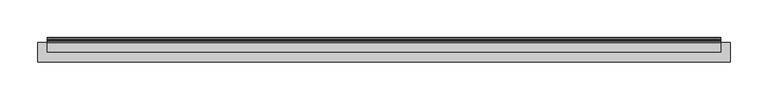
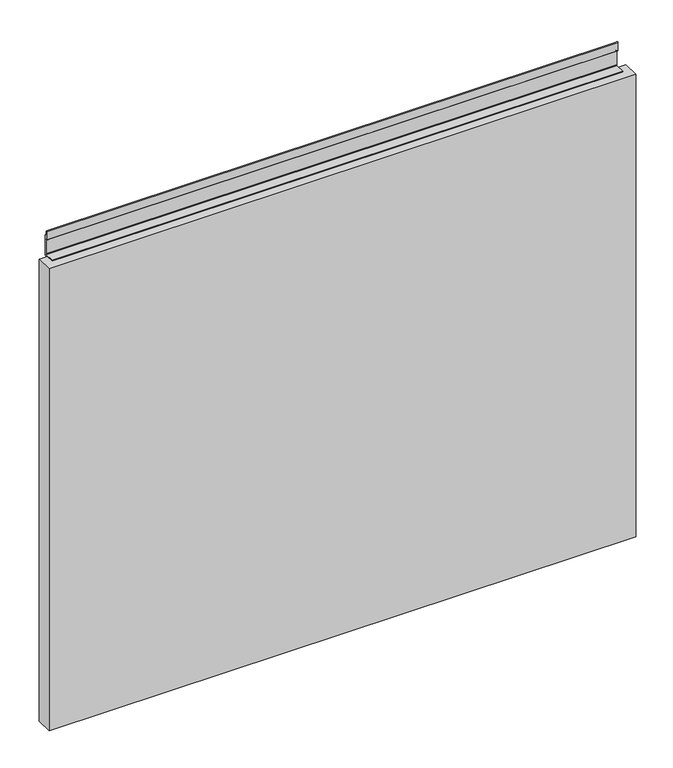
"""IFC4 building model written with IfcOpenShell, lengths in millimetres: furniture geometry, Geiger_GeigerOneCasegoods_WallTileAcceptsTileAboveFabric : Fabric 36Wx 1.25Dx 30H."""

from ifc_helpers import new_model, si_unit, point, frame, frame_2d, origin, origin_with_axes, place, context, project, spatial, polyline, circle_curve, trimmed, segment, composite_curve, outline, extrude, source, transform, mapped, element, save


def furniture_5de3e53a(model_context):
    return source(origin(), model_context, "Body", "SweptSolid", [
        extrude(outline(composite_curve([segment(polyline([(-3.5052, 46.3366), (-2.6924, 45.5238), (-0.8128, 45.5238), (0.0, 44.7364), (0.0, 31.3197095)]), True, "CONTINUOUS"), segment(trimmed(circle_curve(frame_2d((-0.7973236, 31.3197095)), 0.7973236), [point((0.0, 31.3197095))], [point((-1.3611166, 30.7559166))], False, "CARTESIAN"), True, "CONTINUOUS"), segment(polyline([(-1.3611166, 30.7559166), (-2.8956, 32.2904), (-2.8956, 39.2246), (-3.7084, 40.012), (-5.6134, 40.012), (-6.4008, 40.8248), (-6.4008, 72.524), (-5.1054, 72.524), (-3.5052, 70.9238), (-3.5052, 46.3366)]), True, "CONTINUOUS")], self_intersect=False)), frame((50.0016, 0.0, 0.0), z_axis=(1.0, 0.0, 0.0), x_axis=(0.0, 1.0, 0.0)), (0.0, 0.0, 1.0), 75.9968),
        extrude(outline(polyline([(914.4, -6.4008), (914.4, -32.4008), (0.0, -32.4008), (0.0, -6.4008), (914.4, -6.4008)])), origin_with_axes(), (0.0, 0.0, 1.0), 761.0),
        extrude(outline(composite_curve([segment(polyline([(-3.5052, 46.3366), (-2.6924, 45.5238), (-0.8128, 45.5238), (0.0, 44.7364), (0.0, 31.3197095)]), True, "CONTINUOUS"), segment(trimmed(circle_curve(frame_2d((-0.7973236, 31.3197095)), 0.7973236), [point((0.0, 31.3197095))], [point((-1.3611166, 30.7559166))], False, "CARTESIAN"), True, "CONTINUOUS"), segment(polyline([(-1.3611166, 30.7559166), (-2.8956, 32.2904), (-2.8956, 39.2246), (-3.7084, 40.012), (-5.6134, 40.012), (-6.4008, 40.8248), (-6.4008, 72.524), (-5.1054, 72.524), (-3.5052, 70.9238), (-3.5052, 46.3366)]), True, "CONTINUOUS")], self_intersect=False)), frame((788.4, 0.0, 0.0), z_axis=(1.0, 0.0, 0.0), x_axis=(0.0, 1.0, 0.0)), (0.0, 0.0, 1.0), 76.0),
        extrude(outline(composite_curve([segment(polyline([(-3.5052, 801.2336), (-3.5052, 794.2994), (-2.7178, 793.512), (-0.8128, 793.512), (0.0, 792.6992), (0.0, 759.3998), (-2.6924, 759.3998), (-3.5052, 758.6124), (-3.5052, 744.8964), (-2.6924, 744.109), (0.0, 744.109), (0.0, 741.188), (-5.6134, 741.188), (-6.4008, 742.0008), (-6.4008, 761.0), (-18.9992, 761.0), (-18.9992, 762.6002), (-3.7084, 762.6002), (-2.8956, 763.3876), (-2.8956, 787.2128), (-3.7084, 788.0002), (-5.6134, 788.0002), (-6.4008, 788.813), (-6.4008, 802.2057925)]), True, "CONTINUOUS"), segment(trimmed(circle_curve(frame_2d((-5.6040985, 802.2057925)), 0.7967015), [point((-6.4008, 802.2057925))], [point((-5.0407455, 802.7691455))], False, "CARTESIAN"), True, "CONTINUOUS"), segment(polyline([(-5.0407455, 802.7691455), (-3.5052, 801.2336)]), True, "CONTINUOUS")], self_intersect=False)), frame((12.5, 0.0, 0.0), z_axis=(1.0, 0.0, 0.0), x_axis=(0.0, 1.0, 0.0)), (0.0, 0.0, 1.0), 889.4),
    ])


if __name__ == "__main__":
    model = new_model("IFC4")
    model_context = context("Model", 3, world=origin())
    ifc_project = project(units=[si_unit("LENGTHUNIT", "METRE", prefix="MILLI")], contexts=[model_context])
    site = spatial("IfcSite", under=ifc_project)
    building = spatial("IfcBuilding", under=site)
    placement = place(None, origin())
    furniture_shape = furniture_5de3e53a(model_context)
    element("IfcFurniture", 1, ObjectType="Geiger_GeigerOneCasegoods_WallTileAcceptsTileAboveFabric : Fabric 36Wx 1.25Dx 30H", at=placement, inside=building, context=model_context, shape_type="MappedRepresentation", body=[
        mapped(furniture_shape, transform((0.0, 0.0, 0.0), x_axis=(1.0, 0.0, 0.0), y_axis=(0.0, 1.0, 0.0), z_axis=(0.0, 0.0, 1.0))),
    ])
    save(model, "model.ifc")
